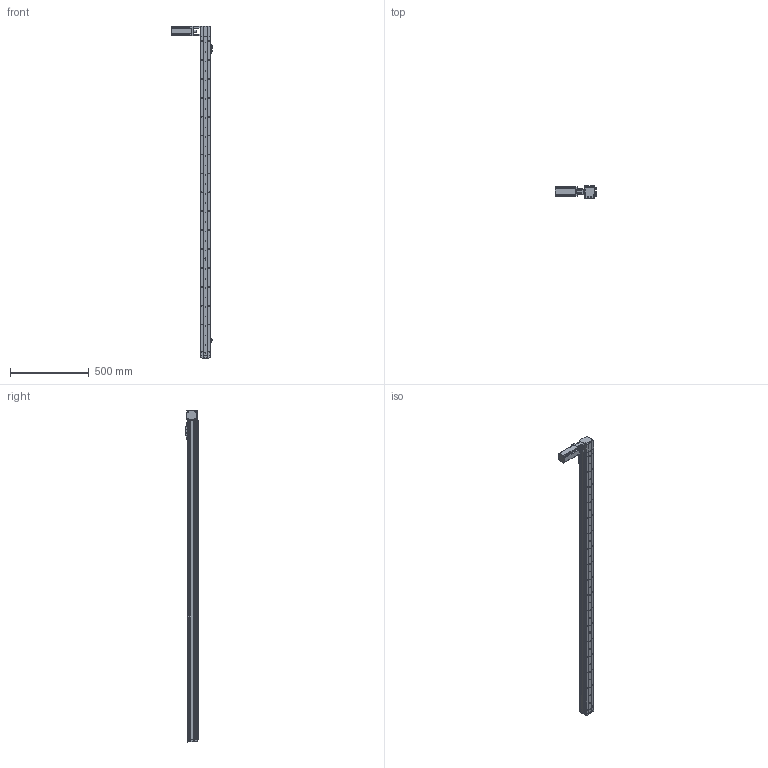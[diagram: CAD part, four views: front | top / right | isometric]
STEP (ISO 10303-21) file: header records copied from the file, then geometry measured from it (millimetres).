
FILE_DESCRIPTION (( 'STEP AP214' ), '1' );
FILE_NAME ('KSD68BS-S1850-MLT-CR.STEP', '2019-11-08T05:41:50', ( '微软用户' ), ( '微软中国' ), 'SwSTEP 2.0', 'SolidWorks 2014', '' );
FILE_SCHEMA (( 'AUTOMOTIVE_DESIGN' ));
Length unit declared in the file: millimetre
Products named in the file (13): 68遵裔啣揤啣1; 68宽单导轨全封闭丝杆传动安装板1防护罩; KSD68BS 1850行程侧板全封闭; 68宽单导轨全封闭同步带端板; 68单导轨全封闭同步带电机座右; 68单导轨全封闭同步带安装板; 感应片68宽全封闭; U倰嫖萇EEㄜSX672; 台达ECMA－C20604AS伺服电机（400W); KSD68BS 1850行程底板全封闭; KSD68BS-S1850-MLT-CR; 100遵鎮湛假蚾啣1; KSD68BS 1850行程盖板全封闭
Assembly tree (16 placements, depth 2):
  KSD68BS-S1850-MLT-CR
    KSD68BS 1850行程底板全封闭
    台达ECMA－C20604AS伺服电机（400W)
    U倰嫖萇EEㄜSX672  x3
    感应片68宽全封闭
    68单导轨全封闭同步带安装板
    68单导轨全封闭同步带电机座右
    68宽单导轨全封闭同步带端板
    KSD68BS 1850行程侧板全封闭  x2
    68宽单导轨全封闭丝杆传动安装板1防护罩
    68遵裔啣揤啣1  x2
    KSD68BS 1850行程盖板全封闭
    100遵鎮湛假蚾啣1
Bounding box: 266.4 x 77 x 2108.1 mm (x, y, z)
Volume: 3631374.2 mm3; surface area: 1473774.7 mm2
Topology: 17 solids, 17 shells, 1580 faces, 4576 edges, 2907 vertices
Faces by surface type: cylinder 780, plane 604, cone 196
Entity records: 52045 total; most frequent: CARTESIAN_POINT 9039, DIRECTION 7672, ORIENTED_EDGE 7340, EDGE_CURVE 3670, AXIS2_PLACEMENT_3D 2810, VERTEX_POINT 2405, VECTOR 2052, LINE 2052
